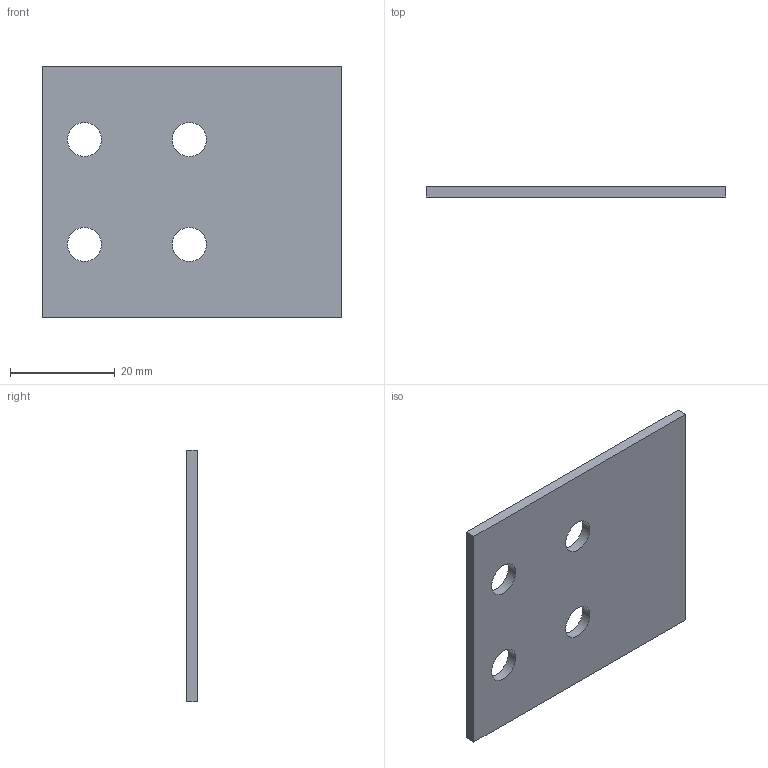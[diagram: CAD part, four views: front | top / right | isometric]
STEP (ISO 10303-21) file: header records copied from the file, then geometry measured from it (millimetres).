
FILE_DESCRIPTION( ( '' ), '1' );
FILE_NAME( 'E:/04 嬴檜蠱滌/0404 ZIMMER/040414 ZIMMER CAD download/Adapt plate/PLK for LKP, LKPS/PLK25-2.stp', '2020-04-16T10:19:41', ( '' ), ( '' ), ' ', ' ', ' ' );
FILE_SCHEMA( ( 'automotive_design' ) );
Length unit declared in the file: millimetre
Products named in the file (1): 1
Bounding box: 57 x 2 x 48 mm (x, y, z)
Volume: 5206.5 mm3; surface area: 5789.9 mm2
Topology: 1 solids, 1 shells, 14 faces, 36 edges, 24 vertices
Faces by surface type: cylinder 8, plane 6
Entity records: 888 total; most frequent: DIRECTION 82, STYLED_ITEM 75, PRESENTATION_STYLE_ASSIGNMENT 75, CARTESIAN_POINT 75, COLOUR_RGB 75, ORIENTED_EDGE 72, EDGE_CURVE 36, CURVE_STYLE 36
